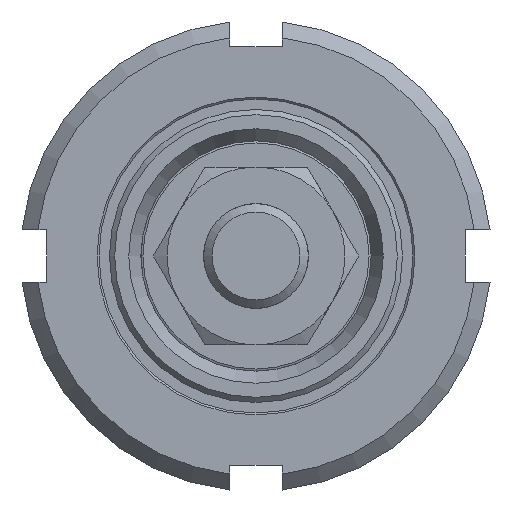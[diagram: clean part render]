
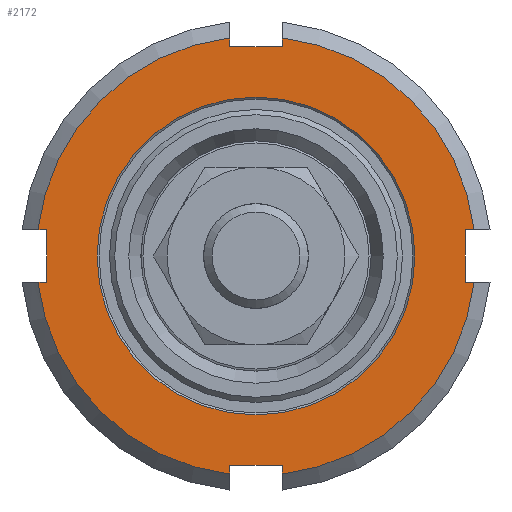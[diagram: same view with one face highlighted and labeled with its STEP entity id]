
A CAD part, front view. The second image highlights one B-rep face of the part: STEP entity #2172.
In plain terms, the highlighted planar face has unit normal (0, -1, 0) as drawn and (0, 0, 1) by its records, which use the part's own axes.
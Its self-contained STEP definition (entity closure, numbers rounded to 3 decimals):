
#88=LINE('',#5036,#152);
#89=LINE('',#5041,#153);
#90=LINE('',#5043,#154);
#91=LINE('',#5045,#155);
#92=LINE('',#5049,#156);
#93=LINE('',#5051,#157);
#94=LINE('',#5053,#158);
#95=LINE('',#5057,#159);
#96=LINE('',#5059,#160);
#97=LINE('',#5061,#161);
#98=LINE('',#5065,#162);
#99=LINE('',#5067,#163);
#152=VECTOR('',#4254,1000.);
#153=VECTOR('',#4257,1000.);
#154=VECTOR('',#4258,1000.);
#155=VECTOR('',#4259,1000.);
#156=VECTOR('',#4262,1000.);
#157=VECTOR('',#4263,1000.);
#158=VECTOR('',#4264,1000.);
#159=VECTOR('',#4267,1000.);
#160=VECTOR('',#4268,1000.);
#161=VECTOR('',#4269,1000.);
#162=VECTOR('',#4272,1000.);
#163=VECTOR('',#4273,1000.);
#325=PLANE('',#3632);
#703=ORIENTED_EDGE('',*,*,#1013,.T.);
#704=ORIENTED_EDGE('',*,*,#1014,.T.);
#705=ORIENTED_EDGE('',*,*,#1015,.F.);
#706=ORIENTED_EDGE('',*,*,#1016,.T.);
#707=ORIENTED_EDGE('',*,*,#1017,.T.);
#708=ORIENTED_EDGE('',*,*,#1018,.T.);
#709=ORIENTED_EDGE('',*,*,#1019,.F.);
#710=ORIENTED_EDGE('',*,*,#1020,.T.);
#711=ORIENTED_EDGE('',*,*,#1021,.T.);
#712=ORIENTED_EDGE('',*,*,#1022,.T.);
#713=ORIENTED_EDGE('',*,*,#1023,.F.);
#714=ORIENTED_EDGE('',*,*,#1024,.T.);
#715=ORIENTED_EDGE('',*,*,#1025,.T.);
#716=ORIENTED_EDGE('',*,*,#1026,.T.);
#717=ORIENTED_EDGE('',*,*,#1027,.F.);
#718=ORIENTED_EDGE('',*,*,#1028,.T.);
#719=ORIENTED_EDGE('',*,*,#1029,.T.);
#1013=EDGE_CURVE('',#1230,#1230,#1396,.T.);
#1014=EDGE_CURVE('',#1231,#1232,#88,.T.);
#1015=EDGE_CURVE('',#1233,#1232,#1397,.T.);
#1016=EDGE_CURVE('',#1233,#1234,#89,.T.);
#1017=EDGE_CURVE('',#1234,#1235,#90,.T.);
#1018=EDGE_CURVE('',#1235,#1236,#91,.T.);
#1019=EDGE_CURVE('',#1237,#1236,#1398,.T.);
#1020=EDGE_CURVE('',#1237,#1238,#92,.T.);
#1021=EDGE_CURVE('',#1238,#1239,#93,.T.);
#1022=EDGE_CURVE('',#1239,#1240,#94,.T.);
#1023=EDGE_CURVE('',#1241,#1240,#1399,.T.);
#1024=EDGE_CURVE('',#1241,#1242,#95,.T.);
#1025=EDGE_CURVE('',#1242,#1243,#96,.T.);
#1026=EDGE_CURVE('',#1243,#1244,#97,.T.);
#1027=EDGE_CURVE('',#1245,#1244,#1400,.T.);
#1028=EDGE_CURVE('',#1245,#1246,#98,.T.);
#1029=EDGE_CURVE('',#1246,#1231,#99,.T.);
#1230=VERTEX_POINT('',#5035);
#1231=VERTEX_POINT('',#5037);
#1232=VERTEX_POINT('',#5038);
#1233=VERTEX_POINT('',#5040);
#1234=VERTEX_POINT('',#5042);
#1235=VERTEX_POINT('',#5044);
#1236=VERTEX_POINT('',#5046);
#1237=VERTEX_POINT('',#5048);
#1238=VERTEX_POINT('',#5050);
#1239=VERTEX_POINT('',#5052);
#1240=VERTEX_POINT('',#5054);
#1241=VERTEX_POINT('',#5056);
#1242=VERTEX_POINT('',#5058);
#1243=VERTEX_POINT('',#5060);
#1244=VERTEX_POINT('',#5062);
#1245=VERTEX_POINT('',#5064);
#1246=VERTEX_POINT('',#5066);
#1396=CIRCLE('',#3633,15.188);
#1397=CIRCLE('',#3634,21.);
#1398=CIRCLE('',#3635,21.);
#1399=CIRCLE('',#3636,21.);
#1400=CIRCLE('',#3637,21.);
#1670=EDGE_LOOP('',(#703));
#1671=EDGE_LOOP('',(#704,#705,#706,#707,#708,#709,#710,#711,#712,#713,#714,
#715,#716,#717,#718,#719));
#1951=FACE_BOUND('',#1670,.T.);
#1952=FACE_BOUND('',#1671,.T.);
#2172=ADVANCED_FACE('',(#1951,#1952),#325,.F.);
#3632=AXIS2_PLACEMENT_3D('',#5033,#4250,#4251);
#3633=AXIS2_PLACEMENT_3D('',#5034,#4252,#4253);
#3634=AXIS2_PLACEMENT_3D('',#5039,#4255,#4256);
#3635=AXIS2_PLACEMENT_3D('',#5047,#4260,#4261);
#3636=AXIS2_PLACEMENT_3D('',#5055,#4265,#4266);
#3637=AXIS2_PLACEMENT_3D('',#5063,#4270,#4271);
#4250=DIRECTION('',(0.,0.,-1.));
#4251=DIRECTION('',(-1.,0.,0.));
#4252=DIRECTION('',(0.,0.,-1.));
#4253=DIRECTION('',(-1.,0.,0.));
#4254=DIRECTION('',(1.,0.,0.));
#4255=DIRECTION('',(0.,0.,-1.));
#4256=DIRECTION('',(-1.,0.,0.));
#4257=DIRECTION('',(0.,-1.,0.));
#4258=DIRECTION('',(-1.,0.,0.));
#4259=DIRECTION('',(0.,1.,0.));
#4260=DIRECTION('',(0.,0.,-1.));
#4261=DIRECTION('',(-1.,0.,0.));
#4262=DIRECTION('',(1.,0.,0.));
#4263=DIRECTION('',(0.,-1.,0.));
#4264=DIRECTION('',(-1.,0.,0.));
#4265=DIRECTION('',(0.,0.,-1.));
#4266=DIRECTION('',(-1.,0.,0.));
#4267=DIRECTION('',(0.,1.,0.));
#4268=DIRECTION('',(1.,0.,0.));
#4269=DIRECTION('',(0.,-1.,0.));
#4270=DIRECTION('',(0.,0.,-1.));
#4271=DIRECTION('',(-1.,0.,0.));
#4272=DIRECTION('',(-1.,0.,0.));
#4273=DIRECTION('',(0.,1.,0.));
#5033=CARTESIAN_POINT('',(0.,0.,7.));
#5034=CARTESIAN_POINT('',(0.,0.,7.));
#5035=CARTESIAN_POINT('',(-15.188,0.,7.));
#5036=CARTESIAN_POINT('',(10.,2.5,7.));
#5037=CARTESIAN_POINT('',(20.,2.5,7.));
#5038=CARTESIAN_POINT('',(20.851,2.5,7.));
#5039=CARTESIAN_POINT('',(0.,0.,7.));
#5040=CARTESIAN_POINT('',(2.5,20.851,7.));
#5041=CARTESIAN_POINT('',(2.5,12.5,7.));
#5042=CARTESIAN_POINT('',(2.5,20.,7.));
#5043=CARTESIAN_POINT('',(1.25,20.,7.));
#5044=CARTESIAN_POINT('',(-2.5,20.,7.));
#5045=CARTESIAN_POINT('',(-2.5,10.,7.));
#5046=CARTESIAN_POINT('',(-2.5,20.851,7.));
#5047=CARTESIAN_POINT('',(0.,0.,7.));
#5048=CARTESIAN_POINT('',(-20.851,2.5,7.));
#5049=CARTESIAN_POINT('',(-12.5,2.5,7.));
#5050=CARTESIAN_POINT('',(-20.,2.5,7.));
#5051=CARTESIAN_POINT('',(-20.,1.25,7.));
#5052=CARTESIAN_POINT('',(-20.,-2.5,7.));
#5053=CARTESIAN_POINT('',(-10.,-2.5,7.));
#5054=CARTESIAN_POINT('',(-20.851,-2.5,7.));
#5055=CARTESIAN_POINT('',(0.,0.,7.));
#5056=CARTESIAN_POINT('',(-2.5,-20.851,7.));
#5057=CARTESIAN_POINT('',(-2.5,-12.5,7.));
#5058=CARTESIAN_POINT('',(-2.5,-20.,7.));
#5059=CARTESIAN_POINT('',(-1.25,-20.,7.));
#5060=CARTESIAN_POINT('',(2.5,-20.,7.));
#5061=CARTESIAN_POINT('',(2.5,-10.,7.));
#5062=CARTESIAN_POINT('',(2.5,-20.851,7.));
#5063=CARTESIAN_POINT('',(0.,0.,7.));
#5064=CARTESIAN_POINT('',(20.851,-2.5,7.));
#5065=CARTESIAN_POINT('',(12.5,-2.5,7.));
#5066=CARTESIAN_POINT('',(20.,-2.5,7.));
#5067=CARTESIAN_POINT('',(20.,-1.25,7.));
